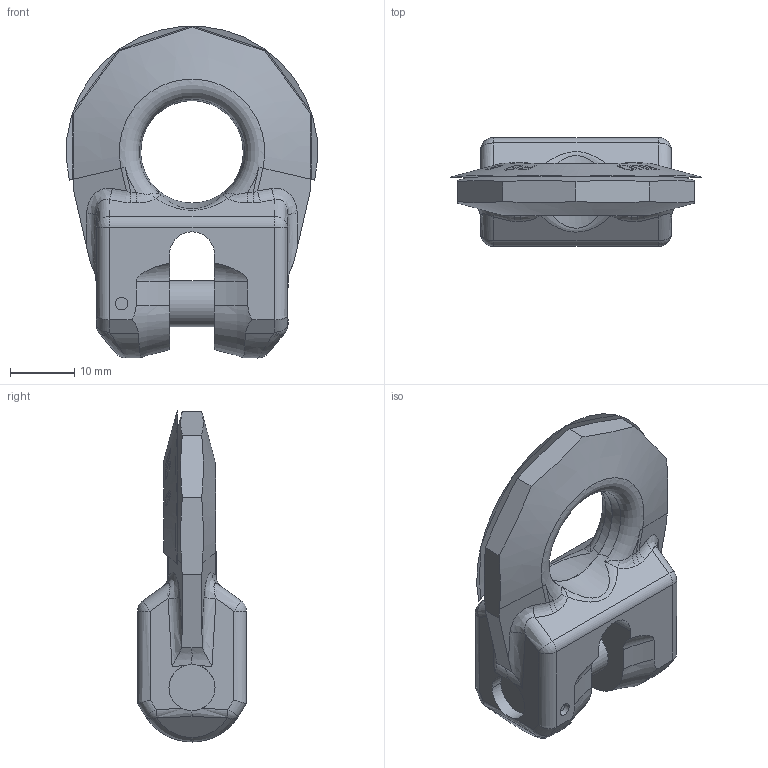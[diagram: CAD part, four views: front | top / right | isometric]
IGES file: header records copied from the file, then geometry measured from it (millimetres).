
Start section:  PTC IGES file: VRG-6_7100469_M31491-P-3.igs
Global section: file name: VRG-6_7100469_M31491-P-3.igs; native system: Pro/ENGINEER by Parametric Technology Corporation; preprocessor: 2010140; author: Andreas.Wendler; organization: Unknown; date: 20140821.135535; units: millimetre
Bounding box: 39.25 x 17 x 51.86 mm (x, y, z)
Volume: 12433.8 mm3; surface area: 6180.1 mm2
Topology: 1 solids, 2 shells, 361 faces, 997 edges, 661 vertices
Faces by surface type: bspline 270, revolution 91
